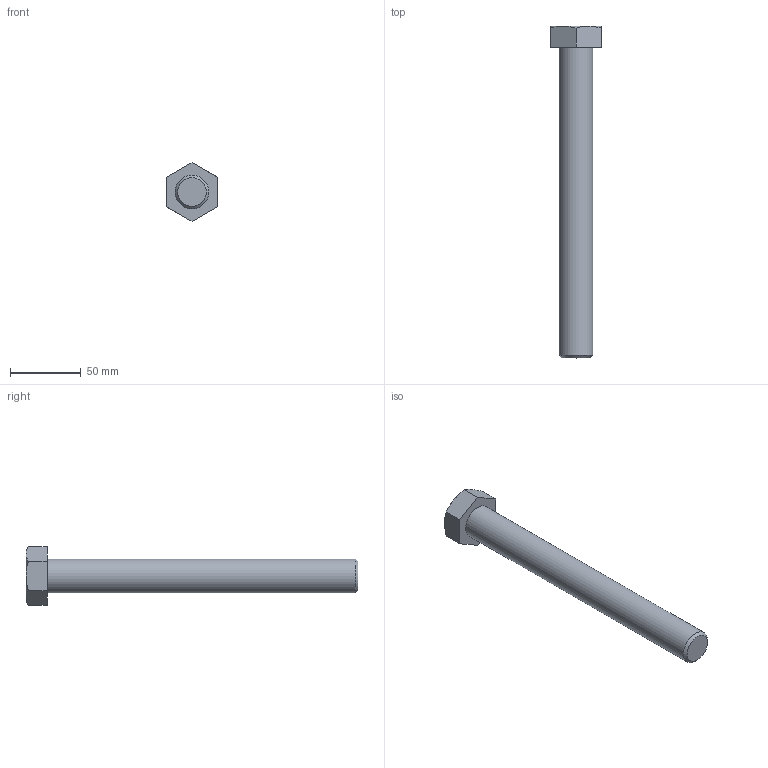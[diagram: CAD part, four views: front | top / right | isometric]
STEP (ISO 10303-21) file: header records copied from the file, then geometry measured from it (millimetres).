
FILE_DESCRIPTION(/* description */ (''),/* implementation_level */ '2;1');
FILE_NAME(/* name */ 'C:\Users\unitec\Documents\Inventor\各種小物\JIS\JIS B 1180 六角ボルト 等級C\hbc24\M24x220.stp',/* time_stamp */ '2015-02-13T14:54:23+09:00',/* author */ ('unitec'),/* organization */ (''),/* preprocessor_version */ 'ST-DEVELOPER v15.2',/* originating_system */ 'Autodesk Inventor 2014',/* authorisation */ '');
FILE_SCHEMA (('AUTOMOTIVE_DESIGN { 1 0 10303 214 3 1 1 }'));
Length unit declared in the file: millimetre
Products named in the file (1): M24x220
Bounding box: 36 x 235 x 41.57 mm (x, y, z)
Volume: 116189.4 mm3; surface area: 20564.7 mm2
Topology: 1 solids, 1 shells, 17 faces, 35 edges, 21 vertices
Faces by surface type: plane 9, cone 7, cylinder 1
Full cylindrical faces by diameter (mm): 24 x1
Entity records: 441 total; most frequent: CARTESIAN_POINT 96, ORIENTED_EDGE 66, DIRECTION 66, EDGE_CURVE 33, AXIS2_PLACEMENT_3D 27, VERTEX_POINT 21, EDGE_LOOP 20, ADVANCED_FACE 17
